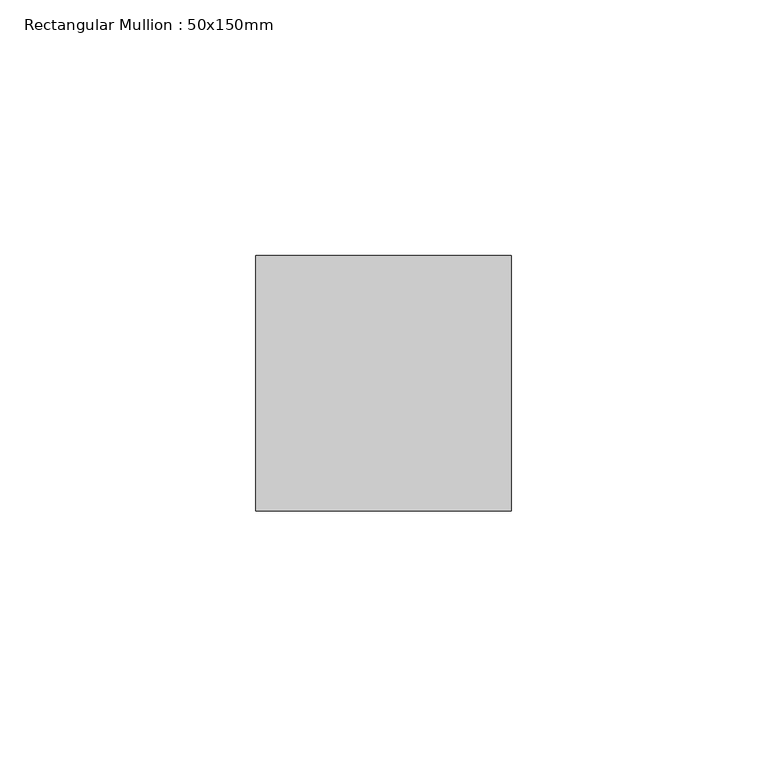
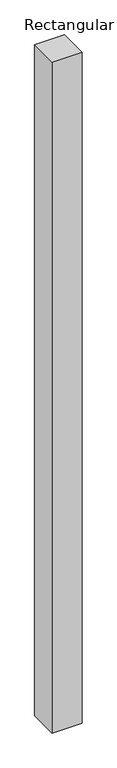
"""IFC4 building model written with IfcOpenShell, lengths in millimetres: member geometry, Rectangular Mullion : 50x150mm."""

from ifc_helpers import new_model, si_unit, frame, origin, place, context, project, spatial, polyline, outline, extrude, source, transform, mapped, element, save


def rectangular_mullion_50x150mm_6ccf2dc3(model_context):
    return source(origin(), model_context, "Body", "SweptSolid", [
        extrude(outline(polyline([(0.0, 25.0), (0.0, -25.0), (-50.0, -25.0), (-50.0, 25.0), (0.0, 25.0)])), frame((0.0, 0.0, -1180.9763022), z_axis=(0.0, 0.0, 1.0), x_axis=(1.0, 0.0, 0.0)), (0.0, 0.0, 1.0), 1180.9763022),
    ])


if __name__ == "__main__":
    model = new_model("IFC4")
    model_context = context("Model", 3, world=origin())
    ifc_project = project(units=[si_unit("LENGTHUNIT", "METRE", prefix="MILLI")], contexts=[model_context])
    site = spatial("IfcSite", under=ifc_project)
    building = spatial("IfcBuilding", under=site)
    placement = place(None, origin())
    rectangular_mullion_50x150mm_shape = rectangular_mullion_50x150mm_6ccf2dc3(model_context)
    element("IfcMember", 1, ObjectType="Rectangular Mullion : 50x150mm", at=placement, inside=building, context=model_context, shape_type="MappedRepresentation", body=[
        mapped(rectangular_mullion_50x150mm_shape, transform((0.0, 0.0, 0.0), x_axis=(1.0, 0.0, 0.0), y_axis=(0.0, 1.0, 0.0), z_axis=(0.0, 0.0, 1.0))),
    ])
    save(model, "model.ifc")
